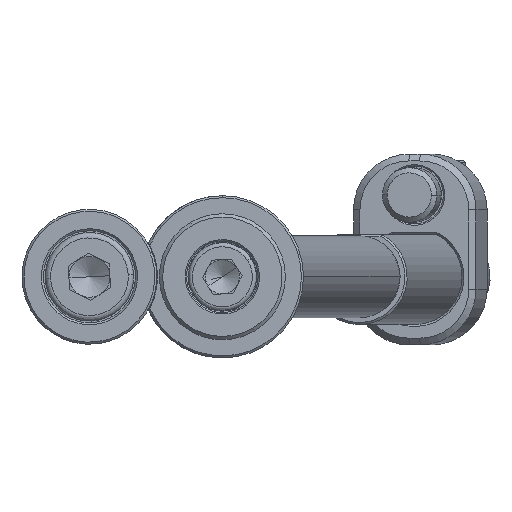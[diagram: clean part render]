
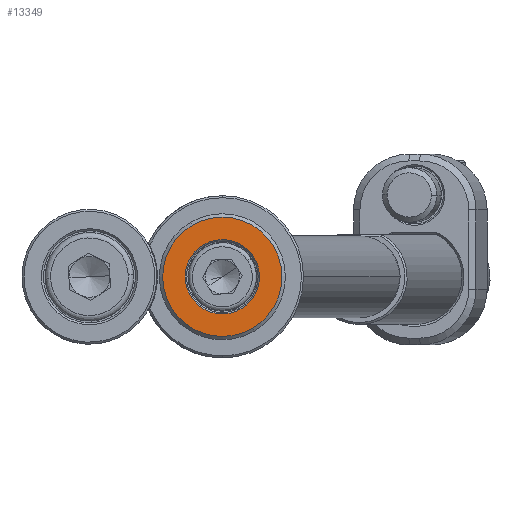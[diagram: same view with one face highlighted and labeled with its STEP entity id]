
A CAD part, front view. The second image highlights one B-rep face of the part: STEP entity #13349.
In plain terms, the highlighted planar face has unit normal (0, -1, 0).
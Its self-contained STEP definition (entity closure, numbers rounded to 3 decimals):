
#418 = DIRECTION ( 'NONE',  ( -0.505, 0., 0.863 ) ) ;
#1023 = DIRECTION ( 'NONE',  ( 0., 1., 0. ) ) ;
#1198 = VERTEX_POINT ( 'NONE', #5535 ) ;
#1372 = AXIS2_PLACEMENT_3D ( 'NONE', #6523, #10951, #8503 ) ;
#2272 = CIRCLE ( 'NONE', #4837, 5.45 ) ;
#2528 = CIRCLE ( 'NONE', #6457, 8.75 ) ;
#2758 = CIRCLE ( 'NONE', #5064, 8.75 ) ;
#2800 = VERTEX_POINT ( 'NONE', #13789 ) ;
#3069 = CARTESIAN_POINT ( 'NONE',  ( 2.753, -4., -4.704 ) ) ;
#3197 = DIRECTION ( 'NONE',  ( -0.505, 0., 0.863 ) ) ;
#3401 = DIRECTION ( 'NONE',  ( -0.505, 0., 0.863 ) ) ;
#3413 = DIRECTION ( 'NONE',  ( 0., 1., 0. ) ) ;
#3481 = CARTESIAN_POINT ( 'NONE',  ( 0., -4., 0. ) ) ;
#3792 = FACE_BOUND ( 'NONE', #7293, .T. ) ;
#3888 = ORIENTED_EDGE ( 'NONE', *, *, #6585, .T. ) ;
#4837 = AXIS2_PLACEMENT_3D ( 'NONE', #3481, #3413, #3401 ) ;
#5064 = AXIS2_PLACEMENT_3D ( 'NONE', #11749, #10657, #418 ) ;
#5535 = CARTESIAN_POINT ( 'NONE',  ( 4.42, -4., -7.552 ) ) ;
#5644 = ORIENTED_EDGE ( 'NONE', *, *, #7688, .T. ) ;
#6403 = VERTEX_POINT ( 'NONE', #7356 ) ;
#6422 = VERTEX_POINT ( 'NONE', #3069 ) ;
#6457 = AXIS2_PLACEMENT_3D ( 'NONE', #8993, #11163, #8924 ) ;
#6523 = CARTESIAN_POINT ( 'NONE',  ( 0., -4., 0. ) ) ;
#6585 = EDGE_CURVE ( 'NONE', #6422, #6403, #7408, .T. ) ;
#7197 = PLANE ( 'NONE',  #12003 ) ;
#7263 = FACE_OUTER_BOUND ( 'NONE', #11885, .T. ) ;
#7293 = EDGE_LOOP ( 'NONE', ( #3888, #12031 ) ) ;
#7356 = CARTESIAN_POINT ( 'NONE',  ( -2.753, -4., 4.704 ) ) ;
#7408 = CIRCLE ( 'NONE', #1372, 5.45 ) ;
#7473 = EDGE_CURVE ( 'NONE', #1198, #2800, #2758, .T. ) ;
#7688 = EDGE_CURVE ( 'NONE', #2800, #1198, #2528, .T. ) ;
#8503 = DIRECTION ( 'NONE',  ( -0.505, 0., 0.863 ) ) ;
#8924 = DIRECTION ( 'NONE',  ( -0.505, 0., 0.863 ) ) ;
#8993 = CARTESIAN_POINT ( 'NONE',  ( 0., -4., 0. ) ) ;
#10657 = DIRECTION ( 'NONE',  ( 0., -1., 0. ) ) ;
#10951 = DIRECTION ( 'NONE',  ( 0., 1., 0. ) ) ;
#11163 = DIRECTION ( 'NONE',  ( 0., -1., 0. ) ) ;
#11749 = CARTESIAN_POINT ( 'NONE',  ( 0., -4., 0. ) ) ;
#11885 = EDGE_LOOP ( 'NONE', ( #5644, #12169 ) ) ;
#12003 = AXIS2_PLACEMENT_3D ( 'NONE', #13157, #1023, #3197 ) ;
#12031 = ORIENTED_EDGE ( 'NONE', *, *, #13817, .T. ) ;
#12169 = ORIENTED_EDGE ( 'NONE', *, *, #7473, .T. ) ;
#13157 = CARTESIAN_POINT ( 'NONE',  ( -4.531, -4., -2.652 ) ) ;
#13349 = ADVANCED_FACE ( 'NONE', ( #3792, #7263 ), #7197, .F. ) ;
#13789 = CARTESIAN_POINT ( 'NONE',  ( -4.42, -4., 7.552 ) ) ;
#13817 = EDGE_CURVE ( 'NONE', #6403, #6422, #2272, .T. ) ;
